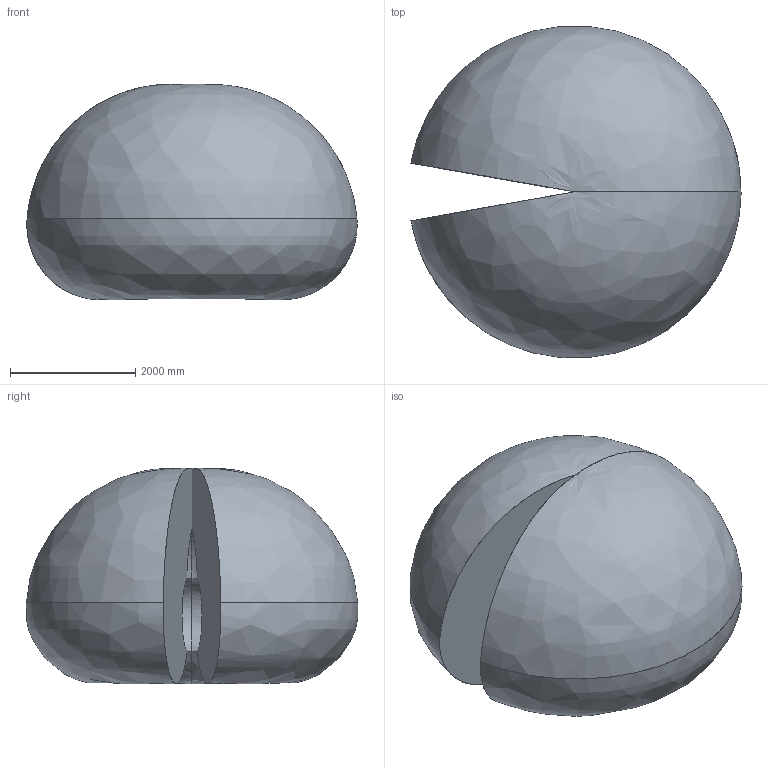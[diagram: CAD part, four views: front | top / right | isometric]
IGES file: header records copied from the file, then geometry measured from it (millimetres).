
Start section: SolidWorks IGES file using analytic representation for surfaces
Global section: file name: B:\Robotics\SEROP_PROJ\Product Development\DevelopmentProjects\RobCal\Design\CAD simuleringsmodeller\Till_RobotStudio\IRB6700-HL\IRB6700_235-265_IRC5_rev02\IRB6700_235-265_IRC5_rev02_IGES_j\IRB6700_265_Working_space.IGS; native system: SolidWorks 2014; preprocessor: SolidWorks 2014; author: SEEMTHE; date: 160127.112317; units: millimetre
Bounding box: 5267.98 x 5283.06 x 3438.57 mm (x, y, z)
Surface area: 90244342.8 mm2 (no closed solid volume)
Topology: 0 solids, 0 shells, 10 faces, 242 edges, 238 vertices
Faces by surface type: bspline 10
